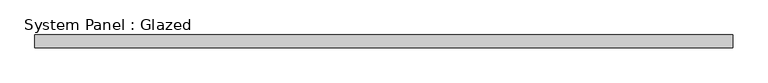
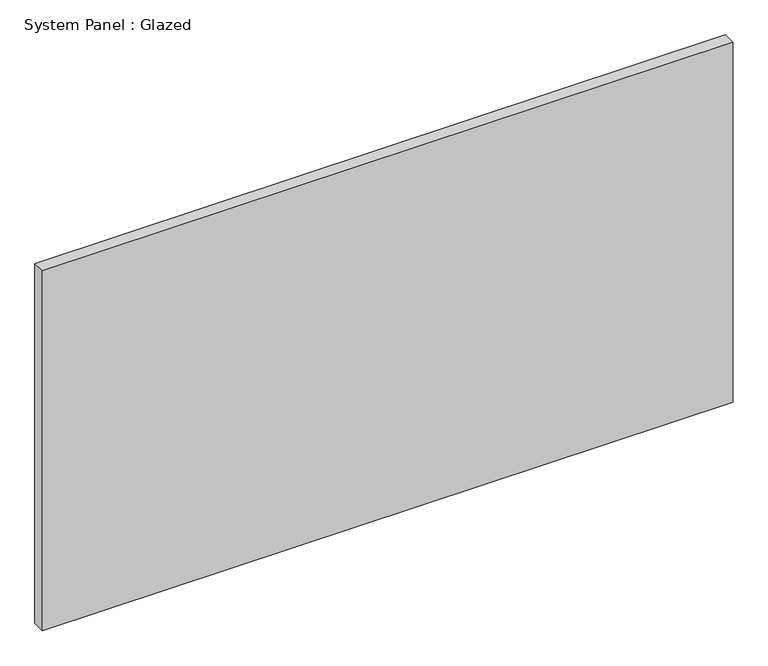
"""IFC4 building model written with IfcOpenShell, lengths in millimetres: plate geometry, System Panel : Glazed."""

from ifc_helpers import new_model, si_unit, origin, origin_with_axes, place, context, project, spatial, polyline, outline, extrude, source, transform, mapped, element, save


def system_panel_glazed_d42a5290(model_context):
    return source(origin(), model_context, "Body", "SweptSolid", [
        extrude(outline(polyline([(688.5886914, 19.05), (-688.5886914, 19.05), (-688.5886914, 44.45), (688.5886914, 44.45), (688.5886914, 19.05)])), origin_with_axes(), (0.0, 0.0, 1.0), 758.2776451),
    ])


if __name__ == "__main__":
    model = new_model("IFC4")
    model_context = context("Model", 3, world=origin())
    ifc_project = project(units=[si_unit("LENGTHUNIT", "METRE", prefix="MILLI")], contexts=[model_context])
    site = spatial("IfcSite", under=ifc_project)
    building = spatial("IfcBuilding", under=site)
    placement = place(None, origin())
    system_panel_glazed_shape = system_panel_glazed_d42a5290(model_context)
    element("IfcPlate", 1, ObjectType="System Panel : Glazed", at=placement, inside=building, context=model_context, shape_type="MappedRepresentation", body=[
        mapped(system_panel_glazed_shape, transform((0.0, 0.0, 0.0), x_axis=(1.0, 0.0, 0.0), y_axis=(0.0, 1.0, 0.0), z_axis=(0.0, 0.0, 1.0))),
    ])
    save(model, "model.ifc")
